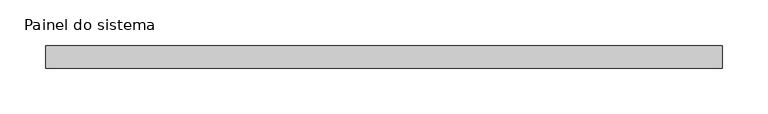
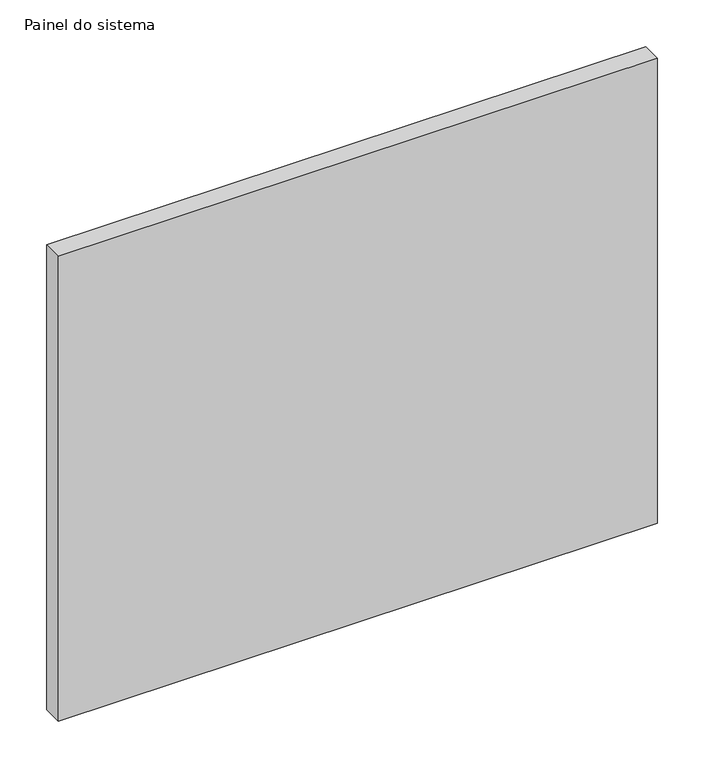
"""IFC4 building model written with IfcOpenShell, lengths in millimetres: plate geometry, Painel do sistema : Envidraçado."""

from ifc_helpers import new_model, si_unit, origin, origin_with_axes, place, context, project, spatial, polyline, outline, extrude, source, transform, mapped, element, save


def painel_do_sistema_284c3407(model_context):
    return source(origin(), model_context, "Body", "SweptSolid", [
        extrude(outline(polyline([(371.6666667, 24.5), (-371.6666667, 24.5), (-371.6666667, 49.5), (371.6666667, 49.5), (371.6666667, 24.5)])), origin_with_axes(), (0.0, 0.0, 1.0), 610.0),
    ])


if __name__ == "__main__":
    model = new_model("IFC4")
    model_context = context("Model", 3, world=origin())
    ifc_project = project(units=[si_unit("LENGTHUNIT", "METRE", prefix="MILLI")], contexts=[model_context])
    site = spatial("IfcSite", under=ifc_project)
    building = spatial("IfcBuilding", under=site)
    placement = place(None, origin())
    painel_do_sistema_shape = painel_do_sistema_284c3407(model_context)
    element("IfcPlate", 1, ObjectType="Painel do sistema : Envidraçado", at=placement, inside=building, context=model_context, shape_type="MappedRepresentation", body=[
        mapped(painel_do_sistema_shape, transform((0.0, 0.0, 0.0), x_axis=(1.0, 0.0, 0.0), y_axis=(0.0, 1.0, 0.0), z_axis=(0.0, 0.0, 1.0))),
    ])
    save(model, "model.ifc")
